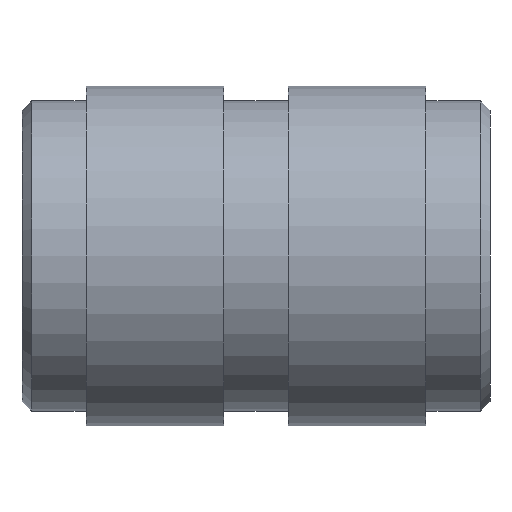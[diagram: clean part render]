
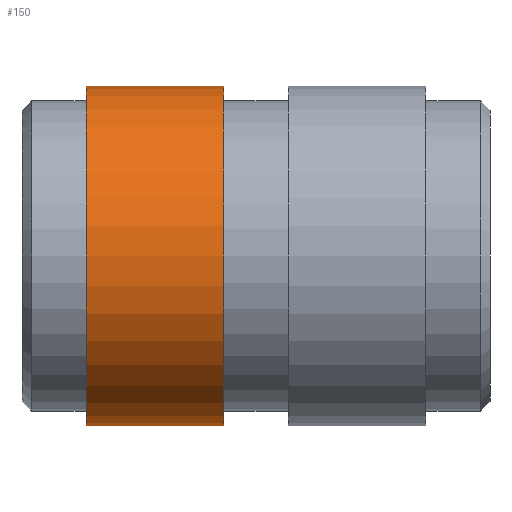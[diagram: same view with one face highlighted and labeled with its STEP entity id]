
A CAD part, front view. The second image highlights one B-rep face of the part: STEP entity #150.
In plain terms, the highlighted cylindrical face has radius 3.45 mm (diameter 6.9 mm), a partial arc.
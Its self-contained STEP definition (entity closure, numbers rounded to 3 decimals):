
#16 = FACE_OUTER_BOUND ( 'NONE', #70, .T. ) ;
#26 = DIRECTION ( 'NONE',  ( 1., 0., 0. ) ) ;
#40 = VECTOR ( 'NONE', #686, 1000. ) ;
#70 = EDGE_LOOP ( 'NONE', ( #700, #518, #340, #128 ) ) ;
#71 = CARTESIAN_POINT ( 'NONE',  ( -0.65, 0., 0. ) ) ;
#77 = LINE ( 'NONE', #505, #90 ) ;
#83 = EDGE_CURVE ( 'NONE', #633, #359, #678, .T. ) ;
#90 = VECTOR ( 'NONE', #387, 1000. ) ;
#107 = AXIS2_PLACEMENT_3D ( 'NONE', #437, #26, #145 ) ;
#116 = EDGE_CURVE ( 'NONE', #612, #633, #77, .T. ) ;
#128 = ORIENTED_EDGE ( 'NONE', *, *, #217, .F. ) ;
#145 = DIRECTION ( 'NONE',  ( 0., 0., 1. ) ) ;
#150 = ADVANCED_FACE ( 'NONE', ( #16 ), #249, .T. ) ;
#217 = EDGE_CURVE ( 'NONE', #423, #359, #318, .T. ) ;
#234 = CARTESIAN_POINT ( 'NONE',  ( -3.45, 0., 0. ) ) ;
#249 = CYLINDRICAL_SURFACE ( 'NONE', #107, 3.45 ) ;
#275 = DIRECTION ( 'NONE',  ( -1., 0., 0. ) ) ;
#284 = CARTESIAN_POINT ( 'NONE',  ( -0.65, 0., 3.45 ) ) ;
#296 = CIRCLE ( 'NONE', #515, 3.45 ) ;
#306 = DIRECTION ( 'NONE',  ( -1., 0., 0. ) ) ;
#318 = LINE ( 'NONE', #564, #40 ) ;
#340 = ORIENTED_EDGE ( 'NONE', *, *, #83, .T. ) ;
#344 = AXIS2_PLACEMENT_3D ( 'NONE', #71, #306, #496 ) ;
#359 = VERTEX_POINT ( 'NONE', #284 ) ;
#361 = CARTESIAN_POINT ( 'NONE',  ( -3.45, 0., 3.45 ) ) ;
#387 = DIRECTION ( 'NONE',  ( 1., 0., 0. ) ) ;
#423 = VERTEX_POINT ( 'NONE', #361 ) ;
#437 = CARTESIAN_POINT ( 'NONE',  ( 0.998, 0., 0. ) ) ;
#442 = CARTESIAN_POINT ( 'NONE',  ( -3.45, 0., -3.45 ) ) ;
#496 = DIRECTION ( 'NONE',  ( 0., 0., 1. ) ) ;
#505 = CARTESIAN_POINT ( 'NONE',  ( 0.998, 0., -3.45 ) ) ;
#515 = AXIS2_PLACEMENT_3D ( 'NONE', #234, #275, #705 ) ;
#518 = ORIENTED_EDGE ( 'NONE', *, *, #116, .T. ) ;
#564 = CARTESIAN_POINT ( 'NONE',  ( 0.998, 0., 3.45 ) ) ;
#612 = VERTEX_POINT ( 'NONE', #442 ) ;
#633 = VERTEX_POINT ( 'NONE', #666 ) ;
#666 = CARTESIAN_POINT ( 'NONE',  ( -0.65, 0., -3.45 ) ) ;
#678 = CIRCLE ( 'NONE', #344, 3.45 ) ;
#686 = DIRECTION ( 'NONE',  ( 1., 0., 0. ) ) ;
#700 = ORIENTED_EDGE ( 'NONE', *, *, #729, .F. ) ;
#705 = DIRECTION ( 'NONE',  ( 0., 0., 1. ) ) ;
#729 = EDGE_CURVE ( 'NONE', #612, #423, #296, .T. ) ;
